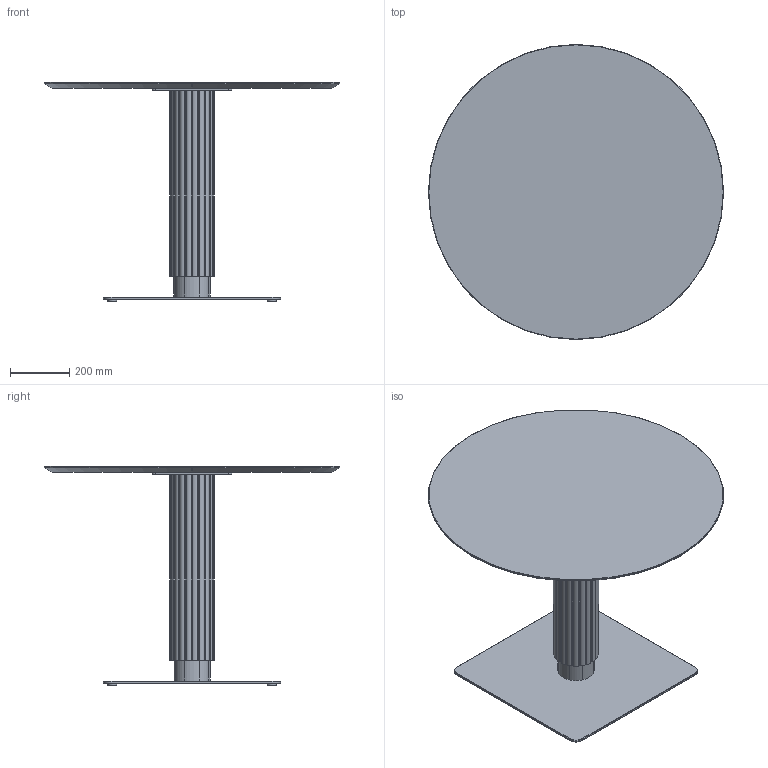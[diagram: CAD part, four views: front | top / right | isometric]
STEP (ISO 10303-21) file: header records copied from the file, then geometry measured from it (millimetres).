
FILE_DESCRIPTION( ('This file contains a STEP AP42 implementation' ,'as created by ZW3D STEP Interface translator.') ,'2;1' );
FILE_NAME( 'Godron - B_Carré - F1 - M5 - 1000 x 1000 x 750.stp' ,'24 912. 95214', (''), ('ZWCAD Software Co.'), 'Version 1.0', 'ZW3D to STEP translator', '' );
FILE_SCHEMA(('AUTOMOTIVE_DESIGN { 1 0 10303 214 1 1 1 1 }'));
Length unit declared in the file: millimetre
Products named in the file (15): 0; PIED BISTROT PARAMETRIQUE_; CROIX ACIER 370 V.02_; CRX-X370-02_; SOCLE ACIER L 600x600 V.02_; SCL-R600-02_; PLA-R30A-01_; PLA-R30A-01; COLONNE ACIER Ø48.5 V.02_; TUB-D048-02_; PLA-R48A-01_; Colonne GODRON H700_; WUERTH 0276063020 Euro-screw 6.3x2 Verzinkt_; PLATEAU BISTROT PARAMETRIQUE_; insert_m6_13_
Assembly tree (23 placements, depth 3):
  0
  PIED BISTROT PARAMETRIQUE_
    CROIX ACIER 370 V.02_
      CRX-X370-02_
    SOCLE ACIER L 600x600 V.02_
      SCL-R600-02_
      PLA-R30A-01_
      PLA-R30A-01  x3
    COLONNE ACIER Ø48.5 V.02_
      TUB-D048-02_
      PLA-R48A-01_  x2
    Colonne GODRON H700_
    WUERTH 0276063020 Euro-screw 6.3x2 Verzinkt_
    PLATEAU BISTROT PARAMETRIQUE_
      insert_m6_13_  x8
Bounding box: 1000 x 1000 x 744 mm (x, y, z)
Volume: 29040481.8 mm3; surface area: 3748165.4 mm2
Topology: 27 solids, 27 shells, 669 faces, 1662 edges, 1062 vertices
Faces by surface type: plane 302, cylinder 192, bspline 121, cone 53, torus 1
Full cylindrical faces by diameter (mm): 4.88 x1, 6 x8, 6.3 x1, 8 x45, 12 x2, 14 x2, 30 x4, 44.5 x3, 48.5 x1
Entity records: 16810 total; most frequent: CARTESIAN_POINT 4133, DIRECTION 2344, ORIENTED_EDGE 2338, EDGE_CURVE 1169, AXIS2_PLACEMENT_3D 829, VERTEX_POINT 756, VECTOR 686, LINE 686
